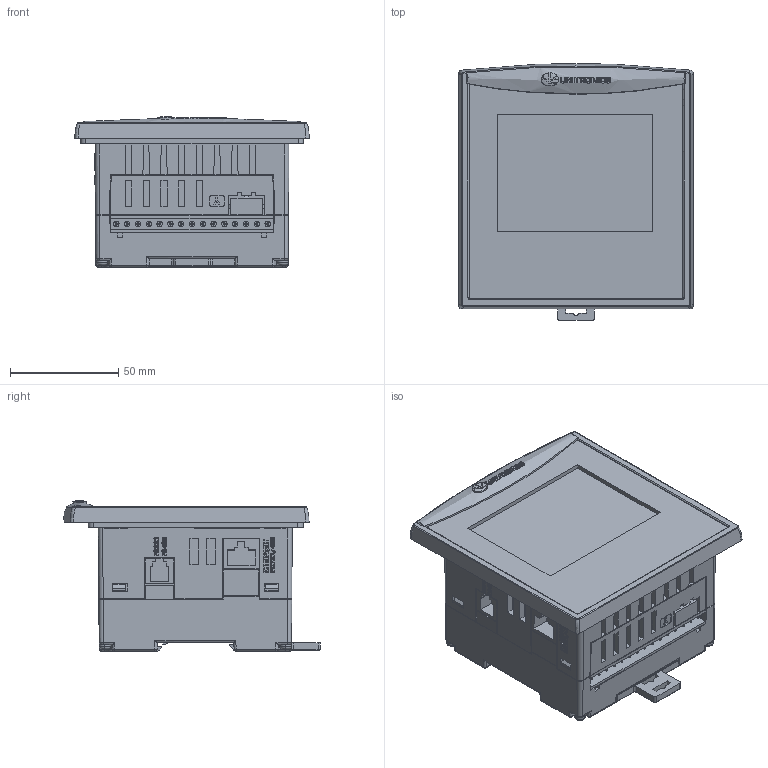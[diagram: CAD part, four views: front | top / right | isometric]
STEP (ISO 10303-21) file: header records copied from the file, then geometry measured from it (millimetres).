
FILE_DESCRIPTION (( 'STEP AP214' ), '1' );
FILE_NAME ('V350.STEP', '2009-10-18T08:37:02', ( 'Unitronics' ), ( 'Unitronics' ), 'SwSTEP 2.0', 'SolidWorks 2009', '' );
FILE_SCHEMA (( 'AUTOMOTIVE_DESIGN' ));
Products named in the file (1): V350
Bounding box: 108.43 x 118.56 x 69.6 mm (x, y, z)
Volume: 454528.5 mm3; surface area: 126569.2 mm2
Topology: 1 solids, 7 shells, 3090 faces, 8559 edges, 5604 vertices
Faces by surface type: plane 1759, bspline 916, cylinder 327, cone 44, torus 28, sphere 16
Entity records: 122907 total; most frequent: CARTESIAN_POINT 51288, ORIENTED_EDGE 17098, DIRECTION 10922, EDGE_CURVE 8549, VERTEX_POINT 5600, VECTOR 5344, LINE 5344, EDGE_LOOP 3369
